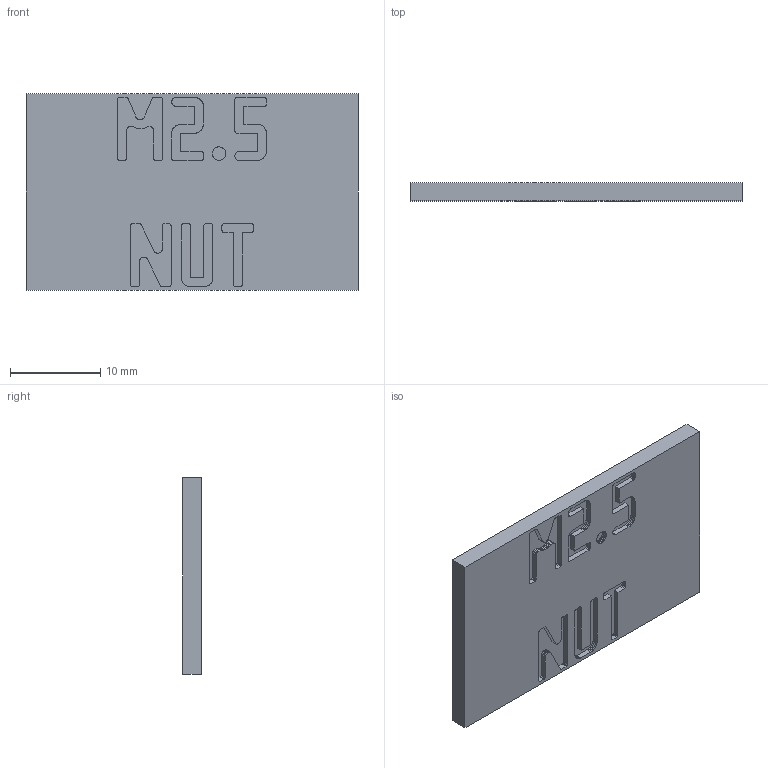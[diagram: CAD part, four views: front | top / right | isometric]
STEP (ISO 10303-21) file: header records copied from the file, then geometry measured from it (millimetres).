
FILE_DESCRIPTION(('Open CASCADE Model'),'2;1');
FILE_NAME('Open CASCADE Shape Model','2026-11-03T17:10:22',('Author'),( 'Open CASCADE'),'Open CASCADE STEP processor 8.0','build123d', 'Unknown');
FILE_SCHEMA(('AUTOMOTIVE_DESIGN { 1 0 10303 214 1 1 1 1 }'));
Length unit declared in the file: millimetre
Products named in the file (2): =>[0:1:1:2]; COMPOUND
Assembly tree (1 placements, depth 2):
  =>[0:1:1:2]
    COMPOUND
Bounding box: 36.8 x 2 x 21.8 mm (x, y, z)
Volume: 1547.7 mm3; surface area: 1947.6 mm2
Topology: 1 solids, 1 shells, 614 faces, 1815 edges, 1210 vertices
Faces by surface type: plane 614
Entity records: 43682 total; most frequent: CARTESIAN_POINT 7271, DIRECTION 6677, LINE 5445, VECTOR 5445, ORIENTED_EDGE 3630, PCURVE 3630, DEFINITIONAL_REPRESENTATION 3630, EDGE_CURVE 1815
